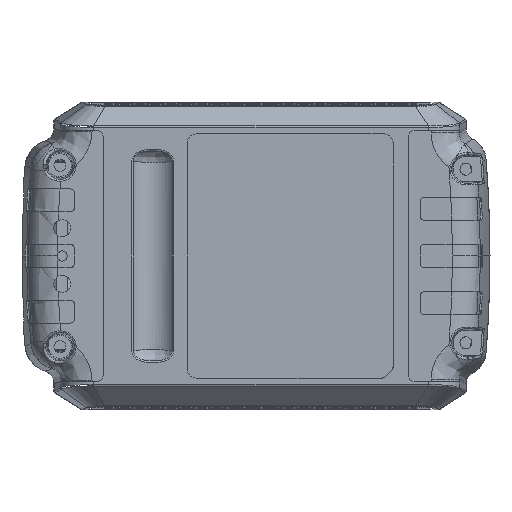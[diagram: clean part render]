
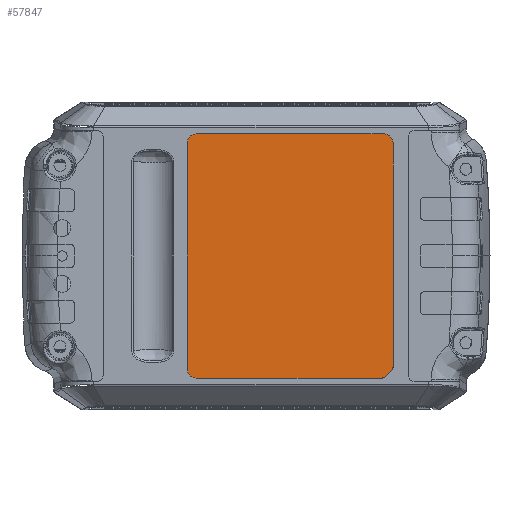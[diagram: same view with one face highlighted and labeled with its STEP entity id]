
A CAD part, front view. The second image highlights one B-rep face of the part: STEP entity #57847.
In plain terms, the highlighted planar face has unit normal (0, -1, 0).
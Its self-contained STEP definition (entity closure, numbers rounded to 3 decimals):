
#2550 = AXIS2_PLACEMENT_3D ( 'NONE', #7984, #75973, #26783 ) ;
#2793 = ORIENTED_EDGE ( 'NONE', *, *, #16240, .T. ) ;
#4326 = CARTESIAN_POINT ( 'NONE',  ( 61.407, -169.428, -30.386 ) ) ;
#6633 = CARTESIAN_POINT ( 'NONE',  ( 59.907, -169.428, 31.1 ) ) ;
#7984 = CARTESIAN_POINT ( 'NONE',  ( 59.193, -169.428, -32.6 ) ) ;
#10363 = EDGE_LOOP ( 'NONE', ( #23825, #2793, #43560, #18150, #74883, #62432, #58820, #28064, #25093, #78868 ) ) ;
#11570 = DIRECTION ( 'NONE',  ( 0.707, 0., -0.707 ) ) ;
#12290 = DIRECTION ( 'NONE',  ( 0., -1., 0. ) ) ;
#13343 = CARTESIAN_POINT ( 'NONE',  ( 59.9, -169.428, -33.307 ) ) ;
#14507 = PLANE ( 'NONE',  #40425 ) ;
#14951 = CIRCLE ( 'NONE', #70843, 2.5 ) ;
#15315 = FACE_OUTER_BOUND ( 'NONE', #10363, .T. ) ;
#15401 = EDGE_CURVE ( 'NONE', #20831, #78585, #14951, .T. ) ;
#15928 = DIRECTION ( 'NONE',  ( -1., 0., 0. ) ) ;
#15946 = CARTESIAN_POINT ( 'NONE',  ( 8.307, -169.428, 31.1 ) ) ;
#16240 = EDGE_CURVE ( 'NONE', #78657, #68862, #61892, .T. ) ;
#18150 = ORIENTED_EDGE ( 'NONE', *, *, #24145, .T. ) ;
#18784 = EDGE_CURVE ( 'NONE', #78585, #39693, #78095, .T. ) ;
#19935 = VERTEX_POINT ( 'NONE', #34515 ) ;
#20043 = DIRECTION ( 'NONE',  ( 1., 0., 0. ) ) ;
#20831 = VERTEX_POINT ( 'NONE', #32012 ) ;
#21007 = CARTESIAN_POINT ( 'NONE',  ( 23.407, -169.428, 0. ) ) ;
#21202 = CARTESIAN_POINT ( 'NONE',  ( 8.307, -169.428, -31.1 ) ) ;
#21619 = VECTOR ( 'NONE', #51956, 1000. ) ;
#23825 = ORIENTED_EDGE ( 'NONE', *, *, #70146, .T. ) ;
#24145 = EDGE_CURVE ( 'NONE', #75445, #19935, #51656, .T. ) ;
#24396 = CARTESIAN_POINT ( 'NONE',  ( 62.407, -169.428, -30.386 ) ) ;
#24806 = DIRECTION ( 'NONE',  ( 0., 0., 1. ) ) ;
#25093 = ORIENTED_EDGE ( 'NONE', *, *, #40753, .T. ) ;
#26783 = DIRECTION ( 'NONE',  ( 0., 0., -1. ) ) ;
#27185 = DIRECTION ( 'NONE',  ( 0., -1., 0. ) ) ;
#28064 = ORIENTED_EDGE ( 'NONE', *, *, #55518, .T. ) ;
#28209 = CARTESIAN_POINT ( 'NONE',  ( 62.407, -169.428, 31.1 ) ) ;
#29821 = CIRCLE ( 'NONE', #2550, 1. ) ;
#30547 = CARTESIAN_POINT ( 'NONE',  ( 59.193, -169.428, -33.6 ) ) ;
#32012 = CARTESIAN_POINT ( 'NONE',  ( 8.307, -169.428, 33.6 ) ) ;
#32409 = VERTEX_POINT ( 'NONE', #13343 ) ;
#32874 = DIRECTION ( 'NONE',  ( 1., 0., 0. ) ) ;
#33906 = CARTESIAN_POINT ( 'NONE',  ( 59.907, -169.428, 33.6 ) ) ;
#34515 = CARTESIAN_POINT ( 'NONE',  ( 59.907, -169.428, 33.6 ) ) ;
#36324 = DIRECTION ( 'NONE',  ( 0., -1., 0. ) ) ;
#37155 = AXIS2_PLACEMENT_3D ( 'NONE', #4326, #67391, #11570 ) ;
#37726 = VECTOR ( 'NONE', #15928, 1000. ) ;
#39169 = DIRECTION ( 'NONE',  ( 0.707, 0., 0.707 ) ) ;
#39693 = VERTEX_POINT ( 'NONE', #51054 ) ;
#40153 = CARTESIAN_POINT ( 'NONE',  ( 8.307, -169.428, -33.6 ) ) ;
#40425 = AXIS2_PLACEMENT_3D ( 'NONE', #21007, #27185, #32874 ) ;
#40666 = DIRECTION ( 'NONE',  ( 0., 0., -1. ) ) ;
#40753 = EDGE_CURVE ( 'NONE', #55187, #76265, #72250, .T. ) ;
#41786 = CARTESIAN_POINT ( 'NONE',  ( 62.407, -169.428, -30.386 ) ) ;
#43560 = ORIENTED_EDGE ( 'NONE', *, *, #48481, .T. ) ;
#44168 = CARTESIAN_POINT ( 'NONE',  ( 62.114, -169.428, -31.093 ) ) ;
#47147 = VECTOR ( 'NONE', #40666, 1000. ) ;
#47697 = DIRECTION ( 'NONE',  ( 0., 0., 1. ) ) ;
#48481 = EDGE_CURVE ( 'NONE', #68862, #75445, #60679, .T. ) ;
#49155 = EDGE_CURVE ( 'NONE', #76265, #32409, #29821, .T. ) ;
#51054 = CARTESIAN_POINT ( 'NONE',  ( 5.807, -169.428, -31.1 ) ) ;
#51656 = CIRCLE ( 'NONE', #54271, 2.5 ) ;
#51748 = LINE ( 'NONE', #57090, #53319 ) ;
#51956 = DIRECTION ( 'NONE',  ( 1., 0., 0. ) ) ;
#53319 = VECTOR ( 'NONE', #39169, 1000. ) ;
#54271 = AXIS2_PLACEMENT_3D ( 'NONE', #6633, #12290, #20043 ) ;
#54641 = CIRCLE ( 'NONE', #63708, 2.5 ) ;
#55187 = VERTEX_POINT ( 'NONE', #65414 ) ;
#55518 = EDGE_CURVE ( 'NONE', #39693, #55187, #54641, .T. ) ;
#57090 = CARTESIAN_POINT ( 'NONE',  ( 59.9, -169.428, -33.307 ) ) ;
#57847 = ADVANCED_FACE ( 'NONE', ( #15315 ), #14507, .T. ) ;
#58820 = ORIENTED_EDGE ( 'NONE', *, *, #18784, .T. ) ;
#60679 = LINE ( 'NONE', #24396, #76485 ) ;
#61892 = CIRCLE ( 'NONE', #37155, 1. ) ;
#62432 = ORIENTED_EDGE ( 'NONE', *, *, #15401, .T. ) ;
#63708 = AXIS2_PLACEMENT_3D ( 'NONE', #21202, #71675, #70874 ) ;
#65414 = CARTESIAN_POINT ( 'NONE',  ( 8.307, -169.428, -33.6 ) ) ;
#67391 = DIRECTION ( 'NONE',  ( 0., -1., 0. ) ) ;
#68862 = VERTEX_POINT ( 'NONE', #41786 ) ;
#70146 = EDGE_CURVE ( 'NONE', #32409, #78657, #51748, .T. ) ;
#70843 = AXIS2_PLACEMENT_3D ( 'NONE', #15946, #36324, #47697 ) ;
#70874 = DIRECTION ( 'NONE',  ( -1., 0., 0. ) ) ;
#71211 = CARTESIAN_POINT ( 'NONE',  ( 5.807, -169.428, 31.1 ) ) ;
#71675 = DIRECTION ( 'NONE',  ( 0., -1., 0. ) ) ;
#72250 = LINE ( 'NONE', #40153, #21619 ) ;
#74883 = ORIENTED_EDGE ( 'NONE', *, *, #78100, .T. ) ;
#75445 = VERTEX_POINT ( 'NONE', #28209 ) ;
#75973 = DIRECTION ( 'NONE',  ( 0., -1., 0. ) ) ;
#76265 = VERTEX_POINT ( 'NONE', #30547 ) ;
#76485 = VECTOR ( 'NONE', #24806, 1000. ) ;
#76900 = CARTESIAN_POINT ( 'NONE',  ( 5.807, -169.428, 31.1 ) ) ;
#78095 = LINE ( 'NONE', #76900, #47147 ) ;
#78100 = EDGE_CURVE ( 'NONE', #19935, #20831, #78197, .T. ) ;
#78197 = LINE ( 'NONE', #33906, #37726 ) ;
#78585 = VERTEX_POINT ( 'NONE', #71211 ) ;
#78657 = VERTEX_POINT ( 'NONE', #44168 ) ;
#78868 = ORIENTED_EDGE ( 'NONE', *, *, #49155, .T. ) ;
